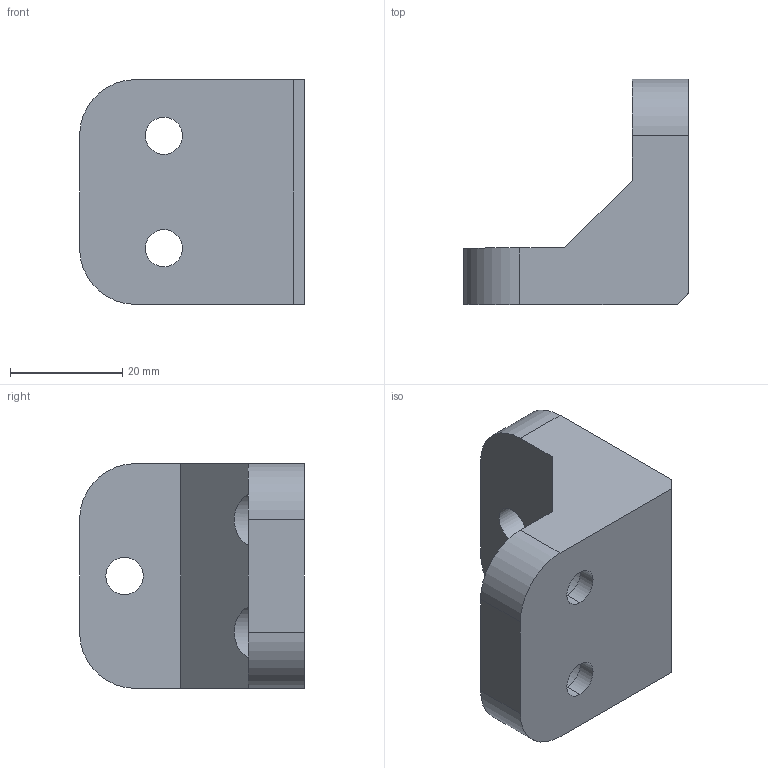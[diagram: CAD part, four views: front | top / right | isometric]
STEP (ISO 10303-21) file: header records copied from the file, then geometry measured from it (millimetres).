
FILE_DESCRIPTION (( 'STEP AP214' ), '1' );
FILE_NAME ('GZ29.04_V1气缸限位座.STEP', '2021-05-06T09:24:26', ( '微软中国' ), ( 'Microsoft' ), 'SwSTEP 2.0', 'SolidWorks 2017', '' );
FILE_SCHEMA (( 'AUTOMOTIVE_DESIGN' ));
Length unit declared in the file: millimetre
Products named in the file (1): GZ29.04_V1气缸限位座
Bounding box: 40 x 40 x 40 mm (x, y, z)
Volume: 28050 mm3; surface area: 7896.2 mm2
Topology: 1 solids, 1 shells, 26 faces, 72 edges, 48 vertices
Faces by surface type: cylinder 14, plane 12
Entity records: 914 total; most frequent: DIRECTION 154, CARTESIAN_POINT 153, ORIENTED_EDGE 144, EDGE_CURVE 72, AXIS2_PLACEMENT_3D 57, VERTEX_POINT 48, VECTOR 40, LINE 40
